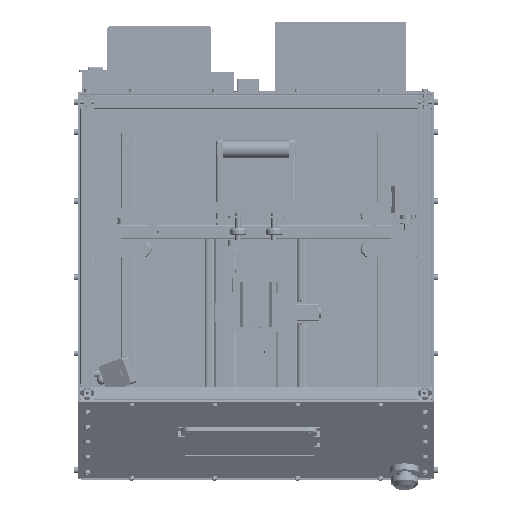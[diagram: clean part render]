
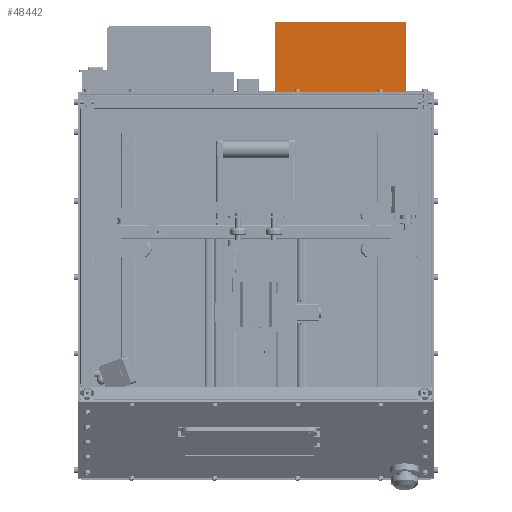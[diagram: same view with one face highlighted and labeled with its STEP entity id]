
A CAD part, top view. The second image highlights one B-rep face of the part: STEP entity #48442.
In plain terms, the highlighted planar face has unit normal (0, 0, 1).
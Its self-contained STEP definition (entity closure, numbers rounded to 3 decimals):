
#48253 = VERTEX_POINT('',#48254);
#48254 = CARTESIAN_POINT('',(28.,258.,266.));
#48261 = PLANE('',#48262);
#48262 = AXIS2_PLACEMENT_3D('',#48263,#48264,#48265);
#48263 = CARTESIAN_POINT('',(28.,258.,263.));
#48264 = DIRECTION('',(1.,0.,0.));
#48265 = DIRECTION('',(0.,0.,1.));
#48273 = PLANE('',#48274);
#48274 = AXIS2_PLACEMENT_3D('',#48275,#48276,#48277);
#48275 = CARTESIAN_POINT('',(28.,258.,263.));
#48276 = DIRECTION('',(0.,1.,0.));
#48277 = DIRECTION('',(0.,0.,1.));
#48314 = VERTEX_POINT('',#48315);
#48315 = CARTESIAN_POINT('',(28.,360.,266.));
#48329 = PLANE('',#48330);
#48330 = AXIS2_PLACEMENT_3D('',#48331,#48332,#48333);
#48331 = CARTESIAN_POINT('',(28.,360.,263.));
#48332 = DIRECTION('',(0.,1.,0.));
#48333 = DIRECTION('',(0.,0.,1.));
#48341 = EDGE_CURVE('',#48253,#48314,#48342,.T.);
#48342 = SURFACE_CURVE('',#48343,(#48347,#48354),.PCURVE_S1.);
#48343 = LINE('',#48344,#48345);
#48344 = CARTESIAN_POINT('',(28.,258.,266.));
#48345 = VECTOR('',#48346,1.);
#48346 = DIRECTION('',(0.,1.,0.));
#48347 = PCURVE('',#48261,#48348);
#48348 = DEFINITIONAL_REPRESENTATION('',(#48349),#48353);
#48349 = LINE('',#48350,#48351);
#48350 = CARTESIAN_POINT('',(3.,0.));
#48351 = VECTOR('',#48352,1.);
#48352 = DIRECTION('',(0.,-1.));
#48353 = ( GEOMETRIC_REPRESENTATION_CONTEXT(2) 
PARAMETRIC_REPRESENTATION_CONTEXT() REPRESENTATION_CONTEXT('2D SPACE',''
  ) );
#48354 = PCURVE('',#48355,#48360);
#48355 = PLANE('',#48356);
#48356 = AXIS2_PLACEMENT_3D('',#48357,#48358,#48359);
#48357 = CARTESIAN_POINT('',(28.,258.,266.));
#48358 = DIRECTION('',(0.,0.,1.));
#48359 = DIRECTION('',(1.,0.,0.));
#48360 = DEFINITIONAL_REPRESENTATION('',(#48361),#48365);
#48361 = LINE('',#48362,#48363);
#48362 = CARTESIAN_POINT('',(0.,0.));
#48363 = VECTOR('',#48364,1.);
#48364 = DIRECTION('',(0.,1.));
#48365 = ( GEOMETRIC_REPRESENTATION_CONTEXT(2) 
PARAMETRIC_REPRESENTATION_CONTEXT() REPRESENTATION_CONTEXT('2D SPACE',''
  ) );
#48394 = EDGE_CURVE('',#48253,#48395,#48397,.T.);
#48395 = VERTEX_POINT('',#48396);
#48396 = CARTESIAN_POINT('',(217.,258.,266.));
#48397 = SURFACE_CURVE('',#48398,(#48402,#48409),.PCURVE_S1.);
#48398 = LINE('',#48399,#48400);
#48399 = CARTESIAN_POINT('',(28.,258.,266.));
#48400 = VECTOR('',#48401,1.);
#48401 = DIRECTION('',(1.,0.,0.));
#48402 = PCURVE('',#48273,#48403);
#48403 = DEFINITIONAL_REPRESENTATION('',(#48404),#48408);
#48404 = LINE('',#48405,#48406);
#48405 = CARTESIAN_POINT('',(3.,0.));
#48406 = VECTOR('',#48407,1.);
#48407 = DIRECTION('',(0.,1.));
#48408 = ( GEOMETRIC_REPRESENTATION_CONTEXT(2) 
PARAMETRIC_REPRESENTATION_CONTEXT() REPRESENTATION_CONTEXT('2D SPACE',''
  ) );
#48409 = PCURVE('',#48355,#48410);
#48410 = DEFINITIONAL_REPRESENTATION('',(#48411),#48415);
#48411 = LINE('',#48412,#48413);
#48412 = CARTESIAN_POINT('',(0.,0.));
#48413 = VECTOR('',#48414,1.);
#48414 = DIRECTION('',(1.,0.));
#48415 = ( GEOMETRIC_REPRESENTATION_CONTEXT(2) 
PARAMETRIC_REPRESENTATION_CONTEXT() REPRESENTATION_CONTEXT('2D SPACE',''
  ) );
#48431 = PLANE('',#48432);
#48432 = AXIS2_PLACEMENT_3D('',#48433,#48434,#48435);
#48433 = CARTESIAN_POINT('',(217.,258.,263.));
#48434 = DIRECTION('',(1.,0.,0.));
#48435 = DIRECTION('',(0.,0.,1.));
#48442 = ADVANCED_FACE('',(#48443),#48355,.T.);
#48443 = FACE_BOUND('',#48444,.T.);
#48444 = EDGE_LOOP('',(#48445,#48446,#48447,#48470));
#48445 = ORIENTED_EDGE('',*,*,#48341,.F.);
#48446 = ORIENTED_EDGE('',*,*,#48394,.T.);
#48447 = ORIENTED_EDGE('',*,*,#48448,.T.);
#48448 = EDGE_CURVE('',#48395,#48449,#48451,.T.);
#48449 = VERTEX_POINT('',#48450);
#48450 = CARTESIAN_POINT('',(217.,360.,266.));
#48451 = SURFACE_CURVE('',#48452,(#48456,#48463),.PCURVE_S1.);
#48452 = LINE('',#48453,#48454);
#48453 = CARTESIAN_POINT('',(217.,258.,266.));
#48454 = VECTOR('',#48455,1.);
#48455 = DIRECTION('',(0.,1.,0.));
#48456 = PCURVE('',#48355,#48457);
#48457 = DEFINITIONAL_REPRESENTATION('',(#48458),#48462);
#48458 = LINE('',#48459,#48460);
#48459 = CARTESIAN_POINT('',(189.,0.));
#48460 = VECTOR('',#48461,1.);
#48461 = DIRECTION('',(0.,1.));
#48462 = ( GEOMETRIC_REPRESENTATION_CONTEXT(2) 
PARAMETRIC_REPRESENTATION_CONTEXT() REPRESENTATION_CONTEXT('2D SPACE',''
  ) );
#48463 = PCURVE('',#48431,#48464);
#48464 = DEFINITIONAL_REPRESENTATION('',(#48465),#48469);
#48465 = LINE('',#48466,#48467);
#48466 = CARTESIAN_POINT('',(3.,0.));
#48467 = VECTOR('',#48468,1.);
#48468 = DIRECTION('',(0.,-1.));
#48469 = ( GEOMETRIC_REPRESENTATION_CONTEXT(2) 
PARAMETRIC_REPRESENTATION_CONTEXT() REPRESENTATION_CONTEXT('2D SPACE',''
  ) );
#48470 = ORIENTED_EDGE('',*,*,#48471,.F.);
#48471 = EDGE_CURVE('',#48314,#48449,#48472,.T.);
#48472 = SURFACE_CURVE('',#48473,(#48477,#48484),.PCURVE_S1.);
#48473 = LINE('',#48474,#48475);
#48474 = CARTESIAN_POINT('',(28.,360.,266.));
#48475 = VECTOR('',#48476,1.);
#48476 = DIRECTION('',(1.,0.,0.));
#48477 = PCURVE('',#48355,#48478);
#48478 = DEFINITIONAL_REPRESENTATION('',(#48479),#48483);
#48479 = LINE('',#48480,#48481);
#48480 = CARTESIAN_POINT('',(0.,102.));
#48481 = VECTOR('',#48482,1.);
#48482 = DIRECTION('',(1.,0.));
#48483 = ( GEOMETRIC_REPRESENTATION_CONTEXT(2) 
PARAMETRIC_REPRESENTATION_CONTEXT() REPRESENTATION_CONTEXT('2D SPACE',''
  ) );
#48484 = PCURVE('',#48329,#48485);
#48485 = DEFINITIONAL_REPRESENTATION('',(#48486),#48490);
#48486 = LINE('',#48487,#48488);
#48487 = CARTESIAN_POINT('',(3.,0.));
#48488 = VECTOR('',#48489,1.);
#48489 = DIRECTION('',(0.,1.));
#48490 = ( GEOMETRIC_REPRESENTATION_CONTEXT(2) 
PARAMETRIC_REPRESENTATION_CONTEXT() REPRESENTATION_CONTEXT('2D SPACE',''
  ) );
